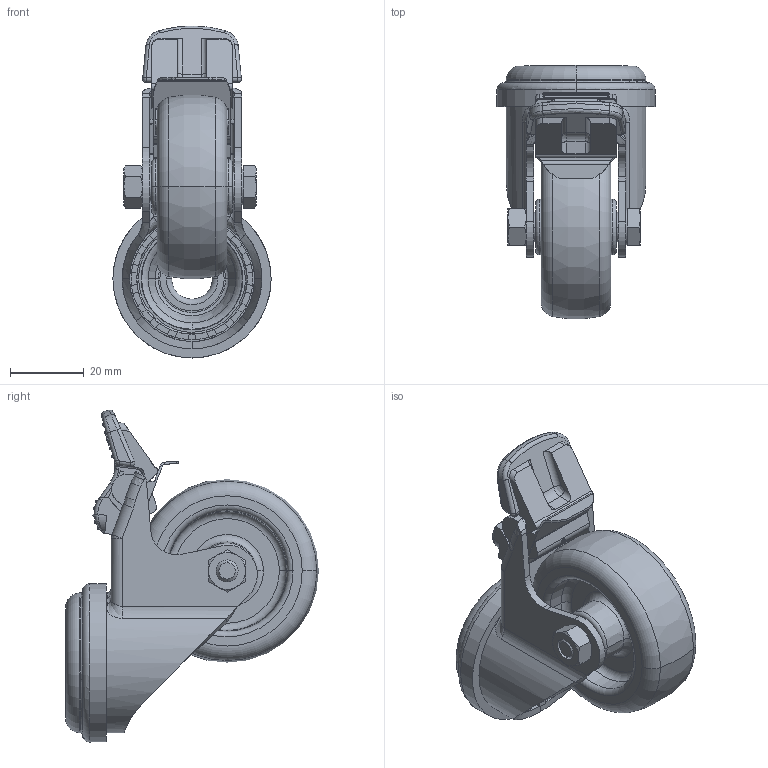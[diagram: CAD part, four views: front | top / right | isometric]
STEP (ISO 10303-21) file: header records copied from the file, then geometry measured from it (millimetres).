
FILE_DESCRIPTION (( 'STEP AP214' ), '1' );
FILE_NAME ('LRXA-TPA_50G-FI_753565-214.step', '2012-12-15T09:41:28', ( '' ), ( '' ), 'SwSTEP 2.0', 'SolidWorks 2011', '' );
FILE_SCHEMA (( 'AUTOMOTIVE_DESIGN' ));
Length unit declared in the file: millimetre
Products named in the file (5): LRXA-TPA_50G-FI_753565-214; GH-LRXA_050-FI_G15; AM_LPA_06x27_D8; TPA-G_G15_TPA_50_8G; TPA_G15_TPA_50_8G_380030
Assembly tree (4 placements, depth 3):
  LRXA-TPA_50G-FI_753565-214
    GH-LRXA_050-FI_G15
    TPA_G15_TPA_50_8G_380030
      TPA-G_G15_TPA_50_8G
    AM_LPA_06x27_D8
Bounding box: 43 x 68.92 x 90.23 mm (x, y, z)
Volume: 54237.2 mm3; surface area: 25842.7 mm2
Topology: 3 solids, 3 shells, 1246 faces, 3314 edges, 2138 vertices
Faces by surface type: plane 613, bspline 312, cylinder 178, cone 65, torus 55, sphere 23
Entity records: 72914 total; most frequent: CARTESIAN_POINT 30853, ORIENTED_EDGE 6578, DIRECTION 4621, EDGE_CURVE 3289, VERTEX_POINT 2133, LINE 1771, VECTOR 1771, AXIS2_PLACEMENT_3D 1425
